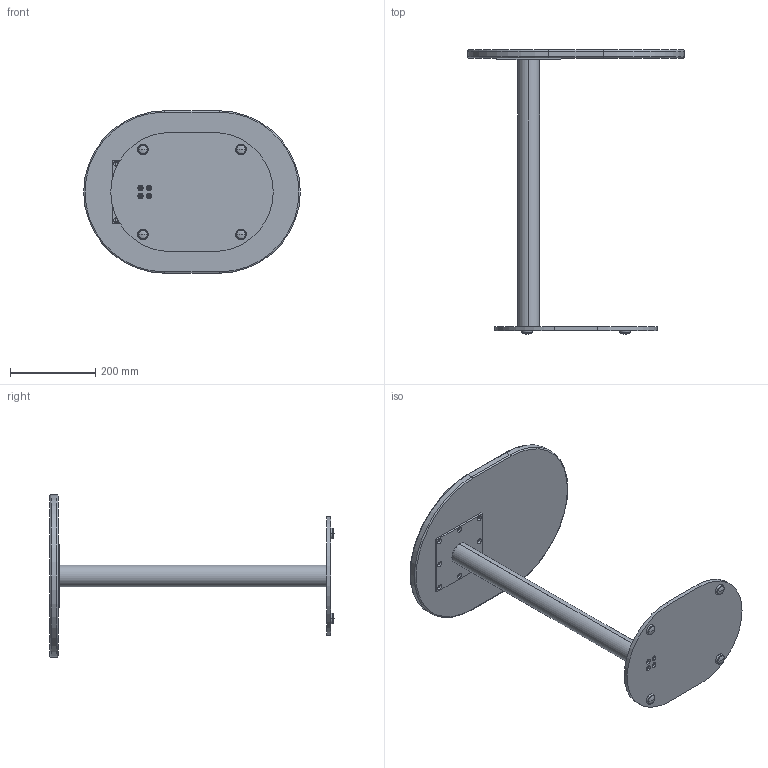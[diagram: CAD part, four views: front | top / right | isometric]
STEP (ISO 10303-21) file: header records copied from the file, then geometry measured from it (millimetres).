
FILE_DESCRIPTION (( 'STEP AP203' ), '1' );
FILE_NAME ('15x20-Fixed Racetrack.STEP', '2024-10-30T12:40:42', ( '' ), ( '' ), 'SwSTEP 2.0', 'SolidWorks 2021', '' );
FILE_SCHEMA (( 'CONFIG_CONTROL_DESIGN' ));
Length unit declared in the file: inch
Products named in the file (13): Welded C-2.25 Col Prototype; 15x11 Racetrack Base; 150mm Square Plate; TT-15x20-EB; 15x20-Fixed Racetrack; TT-15x20-Core; TT-15x20-Lam; C2.25 Column; C2.25 Column Insert Plate; ALG-SS; TT-15x20; 15x11-RC_Base_Assy.; 90720A520_Heavy Duty Twist-Resistant Rivet Nut_90720A520
Assembly tree (18 placements, depth 3):
  15x20-Fixed Racetrack
    15x11-RC_Base_Assy.
      15x11 Racetrack Base
      ALG-SS  x4
    Welded C-2.25 Col Prototype
      150mm Square Plate
      C2.25 Column
      C2.25 Column Insert Plate
      90720A520_Heavy Duty Twist-Resistant Rivet Nut_90720A520  x4
    TT-15x20
      TT-15x20-Core
      TT-15x20-Lam
      TT-15x20-EB
Bounding box: 508 x 666.75 x 381 mm (x, y, z)
Volume: 4254355.7 mm3; surface area: 1165976.3 mm2
Topology: 19 solids, 19 shells, 567 faces, 1325 edges, 798 vertices
Faces by surface type: cylinder 229, cone 192, plane 106, bspline 20, torus 12, sphere 8
Entity records: 12487 total; most frequent: CARTESIAN_POINT 4984, DIRECTION 1301, ORIENTED_EDGE 1200, EDGE_CURVE 600, AXIS2_PLACEMENT_3D 497, VERTEX_POINT 369, VECTOR 307, LINE 307
